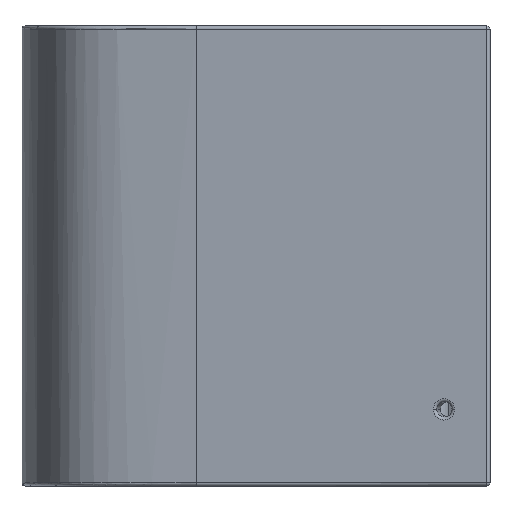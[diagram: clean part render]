
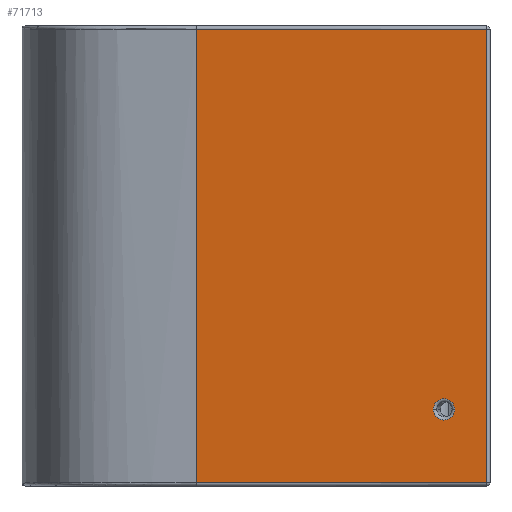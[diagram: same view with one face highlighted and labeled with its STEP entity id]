
A CAD part, left-side view. The second image highlights one B-rep face of the part: STEP entity #71713.
In plain terms, the highlighted planar face has unit normal (-0.988, 0.152, 0).
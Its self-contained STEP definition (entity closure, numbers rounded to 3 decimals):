
#263 = ORIENTED_EDGE ( 'NONE', *, *, #18837, .T. ) ;
#343 = DIRECTION ( 'NONE',  ( -0.152, -0.988, 0. ) ) ;
#2196 = VECTOR ( 'NONE', #343, 1000. ) ;
#2809 = VECTOR ( 'NONE', #53075, 1000. ) ;
#4302 = DIRECTION ( 'NONE',  ( 0.988, -0.152, 0. ) ) ;
#6034 = EDGE_LOOP ( 'NONE', ( #61586, #57522 ) ) ;
#6104 = CIRCLE ( 'NONE', #38705, 7. ) ;
#9442 = DIRECTION ( 'NONE',  ( 0., 0., 1. ) ) ;
#10835 = LINE ( 'NONE', #35292, #69417 ) ;
#10944 = VERTEX_POINT ( 'NONE', #65443 ) ;
#11790 = CARTESIAN_POINT ( 'NONE',  ( 153.938, -82.954, 148. ) ) ;
#13219 = EDGE_CURVE ( 'NONE', #70954, #30575, #73176, .T. ) ;
#14661 = CARTESIAN_POINT ( 'NONE',  ( 183.008, 106.334, -148. ) ) ;
#18837 = EDGE_CURVE ( 'NONE', #37879, #70954, #32323, .T. ) ;
#19136 = CARTESIAN_POINT ( 'NONE',  ( 183.008, 106.334, 150. ) ) ;
#20792 = DIRECTION ( 'NONE',  ( 0.988, -0.152, 0. ) ) ;
#21186 = EDGE_CURVE ( 'NONE', #10944, #37879, #65023, .T. ) ;
#21924 = VERTEX_POINT ( 'NONE', #32361 ) ;
#22500 = EDGE_CURVE ( 'NONE', #21924, #45660, #51365, .T. ) ;
#23691 = EDGE_CURVE ( 'NONE', #45660, #21924, #6104, .T. ) ;
#24071 = FACE_BOUND ( 'NONE', #6034, .T. ) ;
#26890 = CARTESIAN_POINT ( 'NONE',  ( 153.938, -82.954, -148. ) ) ;
#29186 = AXIS2_PLACEMENT_3D ( 'NONE', #38219, #4302, #43943 ) ;
#29262 = ORIENTED_EDGE ( 'NONE', *, *, #21186, .T. ) ;
#29954 = ORIENTED_EDGE ( 'NONE', *, *, #52795, .T. ) ;
#30575 = VERTEX_POINT ( 'NONE', #11790 ) ;
#32323 = LINE ( 'NONE', #39990, #2196 ) ;
#32361 = CARTESIAN_POINT ( 'NONE',  ( 157.13, -62.175, -100. ) ) ;
#33710 = DIRECTION ( 'NONE',  ( 0.988, -0.152, 0. ) ) ;
#35292 = CARTESIAN_POINT ( 'NONE',  ( 183.008, 106.334, 148. ) ) ;
#37879 = VERTEX_POINT ( 'NONE', #14661 ) ;
#38219 = CARTESIAN_POINT ( 'NONE',  ( 158.192, -55.256, -100. ) ) ;
#38705 = AXIS2_PLACEMENT_3D ( 'NONE', #54749, #20792, #60462 ) ;
#39990 = CARTESIAN_POINT ( 'NONE',  ( 183.008, 106.334, -148. ) ) ;
#40982 = DIRECTION ( 'NONE',  ( 0.152, 0.988, 0. ) ) ;
#42905 = VECTOR ( 'NONE', #9442, 1000. ) ;
#43943 = DIRECTION ( 'NONE',  ( 0.152, 0.988, 0. ) ) ;
#44114 = EDGE_LOOP ( 'NONE', ( #44791, #29954, #29262, #263 ) ) ;
#44791 = ORIENTED_EDGE ( 'NONE', *, *, #13219, .T. ) ;
#45660 = VERTEX_POINT ( 'NONE', #56233 ) ;
#48063 = AXIS2_PLACEMENT_3D ( 'NONE', #56327, #33710, #73482 ) ;
#49045 = CARTESIAN_POINT ( 'NONE',  ( 153.938, -82.954, 150. ) ) ;
#51365 = CIRCLE ( 'NONE', #29186, 7. ) ;
#52795 = EDGE_CURVE ( 'NONE', #30575, #10944, #10835, .T. ) ;
#53075 = DIRECTION ( 'NONE',  ( 0., 0., -1. ) ) ;
#54749 = CARTESIAN_POINT ( 'NONE',  ( 158.192, -55.256, -100. ) ) ;
#56233 = CARTESIAN_POINT ( 'NONE',  ( 159.255, -48.337, -100. ) ) ;
#56327 = CARTESIAN_POINT ( 'NONE',  ( 183.008, 106.334, 150. ) ) ;
#57522 = ORIENTED_EDGE ( 'NONE', *, *, #22500, .T. ) ;
#60462 = DIRECTION ( 'NONE',  ( 0.152, 0.988, 0. ) ) ;
#61586 = ORIENTED_EDGE ( 'NONE', *, *, #23691, .T. ) ;
#65023 = LINE ( 'NONE', #19136, #2809 ) ;
#65443 = CARTESIAN_POINT ( 'NONE',  ( 183.008, 106.334, 148. ) ) ;
#67787 = PLANE ( 'NONE',  #48063 ) ;
#69379 = FACE_OUTER_BOUND ( 'NONE', #44114, .T. ) ;
#69417 = VECTOR ( 'NONE', #40982, 1000. ) ;
#70954 = VERTEX_POINT ( 'NONE', #26890 ) ;
#71713 = ADVANCED_FACE ( 'NONE', ( #24071, #69379 ), #67787, .F. ) ;
#73176 = LINE ( 'NONE', #49045, #42905 ) ;
#73482 = DIRECTION ( 'NONE',  ( 0.152, 0.988, 0. ) ) ;
